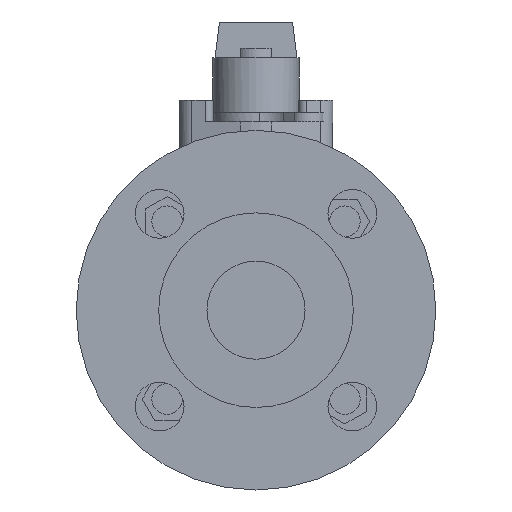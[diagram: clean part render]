
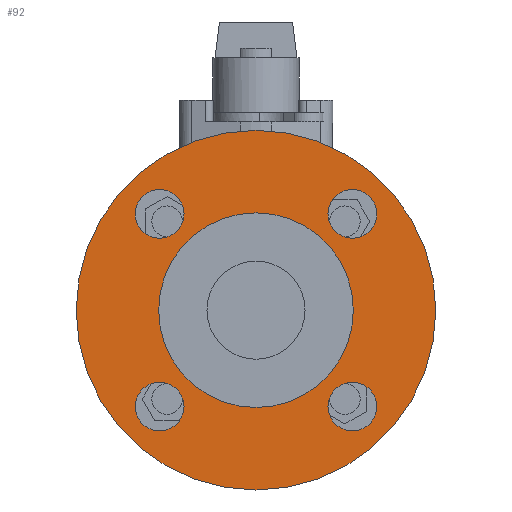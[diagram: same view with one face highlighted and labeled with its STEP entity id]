
A CAD part, left-side view. The second image highlights one B-rep face of the part: STEP entity #92.
In plain terms, the highlighted planar face has unit normal (-1, 0, 0).
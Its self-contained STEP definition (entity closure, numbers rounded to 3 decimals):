
#92=ADVANCED_FACE('',(#475,#476,#477,#478,#479,#480),#474,.T.);
#474=PLANE('',#2629);
#475=FACE_OUTER_BOUND('',#2630,.T.);
#476=FACE_BOUND('',#2631,.T.);
#477=FACE_BOUND('',#2632,.T.);
#478=FACE_BOUND('',#2633,.T.);
#479=FACE_BOUND('',#2634,.T.);
#480=FACE_BOUND('',#2635,.T.);
#2626=CARTESIAN_POINT('',(-75.4,-111.585,-127.3));
#2627=DIRECTION('',(-1.,0.,0.));
#2628=DIRECTION('',(0.,0.,1.));
#2629=AXIS2_PLACEMENT_3D('',#2626,#2627,#2628);
#2630=EDGE_LOOP('',(#4184,#4185));
#2631=EDGE_LOOP('',(#4186,#4187));
#2632=EDGE_LOOP('',(#4188,#4189));
#2633=EDGE_LOOP('',(#4190,#4191));
#2634=EDGE_LOOP('',(#4192,#4193));
#2635=EDGE_LOOP('',(#4194,#4195));
#4184=ORIENTED_EDGE('',*,*,#5314,.T.);
#4185=ORIENTED_EDGE('',*,*,#5315,.T.);
#4186=ORIENTED_EDGE('',*,*,#5316,.F.);
#4187=ORIENTED_EDGE('',*,*,#5317,.F.);
#4188=ORIENTED_EDGE('',*,*,#5318,.F.);
#4189=ORIENTED_EDGE('',*,*,#5319,.F.);
#4190=ORIENTED_EDGE('',*,*,#5320,.F.);
#4191=ORIENTED_EDGE('',*,*,#5321,.F.);
#4192=ORIENTED_EDGE('',*,*,#5322,.F.);
#4193=ORIENTED_EDGE('',*,*,#5323,.F.);
#4194=ORIENTED_EDGE('',*,*,#5324,.F.);
#4195=ORIENTED_EDGE('',*,*,#5325,.F.);
#5314=EDGE_CURVE('',#6639,#6640,#6641,.T.);
#5315=EDGE_CURVE('',#6640,#6639,#6647,.T.);
#5316=EDGE_CURVE('',#6653,#6654,#6655,.T.);
#5317=EDGE_CURVE('',#6654,#6653,#6661,.T.);
#5318=EDGE_CURVE('',#6667,#6668,#6669,.T.);
#5319=EDGE_CURVE('',#6668,#6667,#6675,.T.);
#5320=EDGE_CURVE('',#6681,#6682,#6683,.T.);
#5321=EDGE_CURVE('',#6682,#6681,#6689,.T.);
#5322=EDGE_CURVE('',#6695,#6696,#6697,.T.);
#5323=EDGE_CURVE('',#6696,#6695,#6703,.T.);
#5324=EDGE_CURVE('',#6709,#6710,#6711,.T.);
#5325=EDGE_CURVE('',#6710,#6709,#6717,.T.);
#6639=VERTEX_POINT('',#10100);
#6640=VERTEX_POINT('',#10101);
#6641=CIRCLE('',#10105,58.65);
#6647=CIRCLE('',#10109,58.65);
#6653=VERTEX_POINT('',#10110);
#6654=VERTEX_POINT('',#10111);
#6655=CIRCLE('',#10115,7.95);
#6661=CIRCLE('',#10119,7.95);
#6667=VERTEX_POINT('',#10120);
#6668=VERTEX_POINT('',#10121);
#6669=CIRCLE('',#10125,7.95);
#6675=CIRCLE('',#10129,7.95);
#6681=VERTEX_POINT('',#10130);
#6682=VERTEX_POINT('',#10131);
#6683=CIRCLE('',#10135,7.95);
#6689=CIRCLE('',#10139,7.95);
#6695=VERTEX_POINT('',#10140);
#6696=VERTEX_POINT('',#10141);
#6697=CIRCLE('',#10145,7.95);
#6703=CIRCLE('',#10149,7.95);
#6709=VERTEX_POINT('',#10150);
#6710=VERTEX_POINT('',#10151);
#6711=CIRCLE('',#10155,31.75);
#6717=CIRCLE('',#10159,31.75);
#10100=CARTESIAN_POINT('',(-75.4,0.,58.65));
#10101=CARTESIAN_POINT('',(-75.4,0.,-58.65));
#10102=CARTESIAN_POINT('',(-75.4,0.,0.));
#10103=DIRECTION('',(-1.,0.,0.));
#10104=DIRECTION('',(0.,0.,1.));
#10105=AXIS2_PLACEMENT_3D('',#10102,#10103,#10104);
#10106=CARTESIAN_POINT('',(-75.4,0.,0.));
#10107=DIRECTION('',(-1.,0.,0.));
#10108=DIRECTION('',(0.,0.,1.));
#10109=AXIS2_PLACEMENT_3D('',#10106,#10107,#10108);
#10110=CARTESIAN_POINT('',(-75.4,31.431,-23.481));
#10111=CARTESIAN_POINT('',(-75.4,31.431,-39.381));
#10112=CARTESIAN_POINT('',(-75.4,31.431,-31.431));
#10113=DIRECTION('',(-1.,0.,0.));
#10114=DIRECTION('',(0.,0.,-1.));
#10115=AXIS2_PLACEMENT_3D('',#10112,#10113,#10114);
#10116=CARTESIAN_POINT('',(-75.4,31.431,-31.431));
#10117=DIRECTION('',(-1.,0.,0.));
#10118=DIRECTION('',(0.,0.,-1.));
#10119=AXIS2_PLACEMENT_3D('',#10116,#10117,#10118);
#10120=CARTESIAN_POINT('',(-75.4,-31.431,-39.381));
#10121=CARTESIAN_POINT('',(-75.4,-31.431,-23.481));
#10122=CARTESIAN_POINT('',(-75.4,-31.431,-31.431));
#10123=DIRECTION('',(-1.,0.,0.));
#10124=DIRECTION('',(0.,0.,1.));
#10125=AXIS2_PLACEMENT_3D('',#10122,#10123,#10124);
#10126=CARTESIAN_POINT('',(-75.4,-31.431,-31.431));
#10127=DIRECTION('',(-1.,0.,0.));
#10128=DIRECTION('',(0.,0.,1.));
#10129=AXIS2_PLACEMENT_3D('',#10126,#10127,#10128);
#10130=CARTESIAN_POINT('',(-75.4,-31.431,39.381));
#10131=CARTESIAN_POINT('',(-75.4,-31.431,23.481));
#10132=CARTESIAN_POINT('',(-75.4,-31.431,31.431));
#10133=DIRECTION('',(-1.,0.,0.));
#10134=DIRECTION('',(0.,0.,-1.));
#10135=AXIS2_PLACEMENT_3D('',#10132,#10133,#10134);
#10136=CARTESIAN_POINT('',(-75.4,-31.431,31.431));
#10137=DIRECTION('',(-1.,0.,0.));
#10138=DIRECTION('',(0.,0.,-1.));
#10139=AXIS2_PLACEMENT_3D('',#10136,#10137,#10138);
#10140=CARTESIAN_POINT('',(-75.4,31.431,23.481));
#10141=CARTESIAN_POINT('',(-75.4,31.431,39.381));
#10142=CARTESIAN_POINT('',(-75.4,31.431,31.431));
#10143=DIRECTION('',(-1.,0.,0.));
#10144=DIRECTION('',(0.,0.,1.));
#10145=AXIS2_PLACEMENT_3D('',#10142,#10143,#10144);
#10146=CARTESIAN_POINT('',(-75.4,31.431,31.431));
#10147=DIRECTION('',(-1.,0.,0.));
#10148=DIRECTION('',(0.,0.,1.));
#10149=AXIS2_PLACEMENT_3D('',#10146,#10147,#10148);
#10150=CARTESIAN_POINT('',(-75.4,0.,-31.75));
#10151=CARTESIAN_POINT('',(-75.4,0.,31.75));
#10152=CARTESIAN_POINT('',(-75.4,0.,0.));
#10153=DIRECTION('',(-1.,0.,0.));
#10154=DIRECTION('',(0.,0.,1.));
#10155=AXIS2_PLACEMENT_3D('',#10152,#10153,#10154);
#10156=CARTESIAN_POINT('',(-75.4,0.,0.));
#10157=DIRECTION('',(-1.,0.,0.));
#10158=DIRECTION('',(0.,0.,1.));
#10159=AXIS2_PLACEMENT_3D('',#10156,#10157,#10158);
